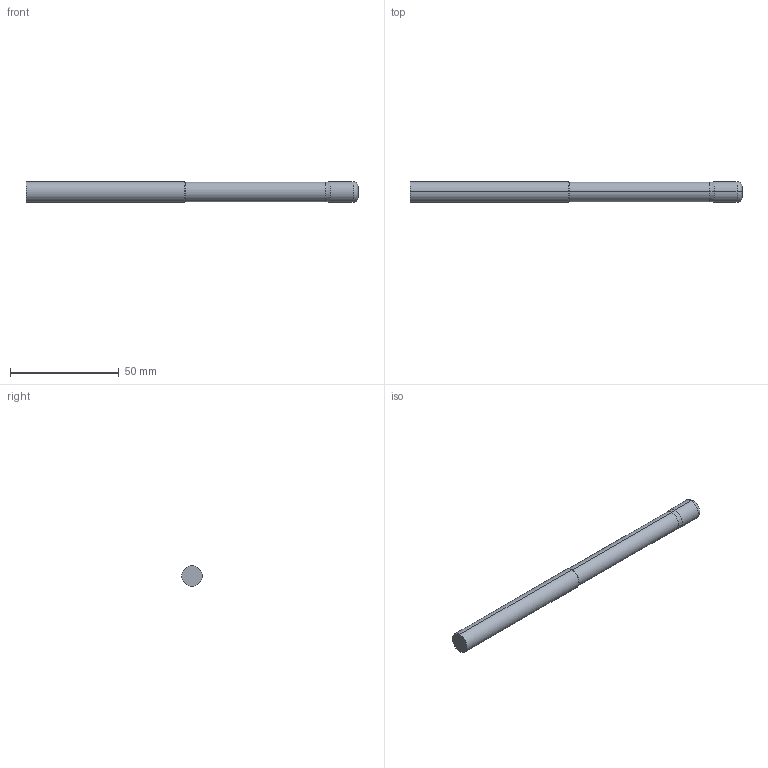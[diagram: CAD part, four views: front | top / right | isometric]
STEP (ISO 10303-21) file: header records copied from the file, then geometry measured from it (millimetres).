
FILE_DESCRIPTION (( 'STEP AP214' ), '1' );
FILE_NAME ('SSIRNL70375-090.STEP', '2025-05-30T14:37:55', ( '' ), ( '' ), 'SwSTEP 2.0', 'SolidWorks 2023', '' );
FILE_SCHEMA (( 'AUTOMOTIVE_DESIGN' ));
Length unit declared in the file: inch
Products named in the file (3): SSI7 Cut Only_SSIRNL70375-090; SSI7 Shank Only_SSIRNL70375-090; SSIRNL70375-090
Assembly tree (2 placements, depth 2):
  SSIRNL70375-090
    SSI7 Cut Only_SSIRNL70375-090
    SSI7 Shank Only_SSIRNL70375-090
Bounding box: 152.4 x 9.53 x 9.53 mm (x, y, z)
Volume: 10342.1 mm3; surface area: 4711 mm2
Topology: 2 solids, 2 shells, 16 faces, 28 edges, 16 vertices
Faces by surface type: cylinder 6, plane 4, cone 4, torus 2
Entity records: 484 total; most frequent: DIRECTION 88, CARTESIAN_POINT 65, ORIENTED_EDGE 56, AXIS2_PLACEMENT_3D 39, EDGE_CURVE 28, CIRCLE 18, VERTEX_POINT 16, ADVANCED_FACE 16
